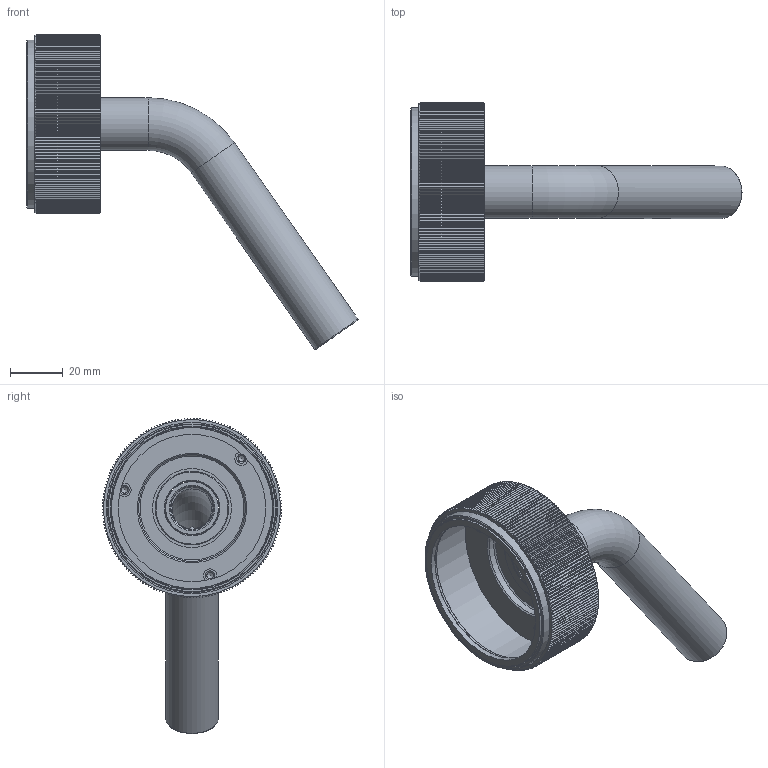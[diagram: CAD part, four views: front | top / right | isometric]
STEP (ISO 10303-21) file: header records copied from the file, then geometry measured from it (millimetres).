
FILE_DESCRIPTION(/* description */ ('Unknown'),/* implementation_level */ '2;1');
FILE_NAME(/* name */ 'RN002',/* time_stamp */ '2023-02-11T12:08:21+01:00',/* author */ ('Unknown'),/* organization */ ('Unknown'),/* preprocessor_version */ 'ST-DEVELOPER v18.102',/* originating_system */ 'Solid Edge',/* authorisation */ 'Unknown');
FILE_SCHEMA (('AUTOMOTIVE_DESIGN {1 0 10303 214 3 1 1}'));
Length unit declared in the file: millimetre
Products named in the file (14): RN002; RN002-002 R1_oa_0; 44.3256.450; CB003-002-1; CB003-002-2; CB003-002-3; CB003-002-4; RN001-08; RN002-07 R1; RN002-05; RN001-12; RN002-06; RN002-003_oa_1; RN002-03
Assembly tree (13 placements, depth 4):
  RN002
    RN002-002 R1_oa_0
      44.3256.450
        CB003-002-1
        CB003-002-2
        CB003-002-3
        CB003-002-4
      RN001-08
      RN002-07 R1
      RN002-05
      RN001-12
      RN002-06
      RN002-003_oa_1
        RN002-03
Bounding box: 125.98 x 68 x 119.57 mm (x, y, z)
Volume: 41258.5 mm3; surface area: 40696.1 mm2
Topology: 10 solids, 10 shells, 1181 faces, 2642 edges, 1506 vertices
Faces by surface type: plane 505, cone 412, cylinder 229, torus 18, bspline 17
Full cylindrical faces by diameter (mm): 2.459 x6, 3.242 x1, 5 x3, 11.027 x2, 12.159 x1, 12.196 x1, 12.45 x1, 13.464 x1, 14.577 x1, 15 x1, 15.033 x1, 15.218 x1, 15.229 x1, 15.417 x2, 16 x1, 16.3 x1, 16.5 x2, 16.75 x1, 18 x1, 20 x2, 20.5 x1, 23.8 x1, 24 x1, 28 x1, 30 x1, 40.5 x1, 56 x1, 56.5 x1, 61 x1, 61.5 x2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
Entity records: 40408 total; most frequent: CARTESIAN_POINT 7881, DIRECTION 5026, ORIENTED_EDGE 4998, EDGE_CURVE 2499, AXIS2_PLACEMENT_3D 2115, VERTEX_POINT 1477, FACE_BOUND 1332, EDGE_LOOP 1326
